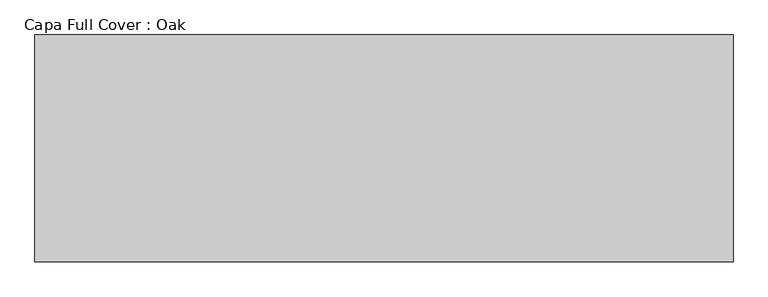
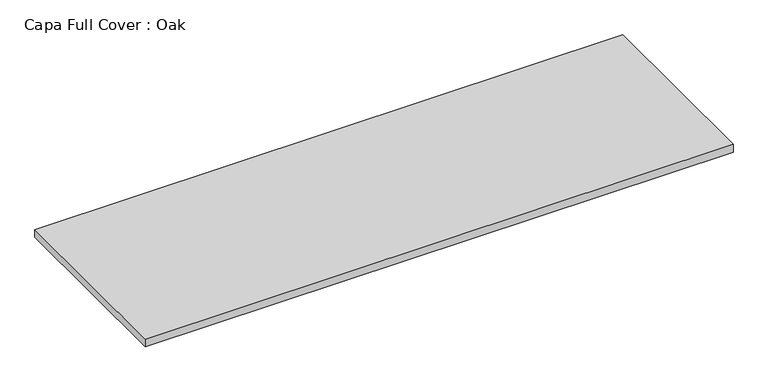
"""IFC4 building model written with IfcOpenShell, lengths in millimetres: furniture geometry, Capa Full Cover : Oak."""

import ifcopenshell
import ifcopenshell.guid

model = None  # the IFC model being written
_history = None  # IfcOwnerHistory: only IFC2X3 demands one
_inside = {}  # id of a spatial element -> (the spatial element, [elements in it])
_under = {}  # id of a project, library or spatial element -> (it, [spatial elements below it])
_declared = {}  # id of a project -> (the project, [libraries it declares])
_typed = {}  # id of a type object -> (the type object, [elements of that type])
_made_of = {}  # id of a material, layer set ... -> (it, [elements and type objects made of it])


def new_model(schema):
    """Start an empty IFC model of exactly this schema.

    Asked for "IFC4X3", IfcOpenShell would pick the latest addendum, in which some entities
    have other attributes; the version numbers below select the first issue.
    IFC2X3 requires an IfcOwnerHistory on every rooted entity: one is made here for all.
    """
    global model, _history
    if schema == "IFC4X3":
        model = ifcopenshell.file(schema_version=(4, 3, 0, 0))
    else:
        model = ifcopenshell.file(schema=schema)
    _inside.clear()
    _under.clear()
    _declared.clear()
    _typed.clear()
    _made_of.clear()
    _history = None
    if model.schema == "IFC2X3":
        org = make("IfcOrganization", Name="unknown")
        user = make(
            "IfcPersonAndOrganization",
            ThePerson=make("IfcPerson", FamilyName="unknown"),
            TheOrganization=org,
        )
        app = make(
            "IfcApplication",
            ApplicationDeveloper=org,
            Version="unknown",
            ApplicationFullName="unknown",
            ApplicationIdentifier="unknown",
        )
        _history = make(
            "IfcOwnerHistory",
            OwningUser=user,
            OwningApplication=app,
            ChangeAction="ADDED",
            CreationDate=0,
        )
    return model


def make(cls, **values):
    """One entity of the class cls with the attributes given. An attribute that is None is left unset."""
    return model.create_entity(
        cls, **{name: value for name, value in values.items() if value is not None}
    )


def rooted(cls, **values):
    """An entity with a GlobalId (a new one), such as an element, a storey or a relation."""
    return make(cls, GlobalId=ifcopenshell.guid.new(), OwnerHistory=_history, **values)


def si_unit(unit_type, name, prefix=None):
    """IfcSIUnit, for example si_unit("LENGTHUNIT", "METRE", prefix="MILLI")."""
    return make("IfcSIUnit", UnitType=unit_type, Prefix=prefix, Name=name)


def assignment(units):
    """IfcUnitAssignment: the units of a project."""
    return None if units is None else make("IfcUnitAssignment", Units=units)


def point(xyz):
    """IfcCartesianPoint."""
    return None if xyz is None else make("IfcCartesianPoint", Coordinates=xyz)


def direction(xyz):
    """IfcDirection."""
    return None if xyz is None else make("IfcDirection", DirectionRatios=xyz)


def frame(location, z_axis=None, x_axis=None):
    """IfcAxis2Placement3D, a coordinate frame: its origin and axes. An axis left out is left unset."""
    return make(
        "IfcAxis2Placement3D",
        Location=point(location),
        Axis=direction(z_axis),
        RefDirection=direction(x_axis),
    )


def origin():
    """The frame at (0, 0, 0) with its axes left unset."""
    return frame((0.0, 0.0, 0.0))


def origin_with_axes():
    """The frame at (0, 0, 0) with the z axis (0, 0, 1) and the x axis (1, 0, 0) written out."""
    return frame((0.0, 0.0, 0.0), z_axis=(0.0, 0.0, 1.0), x_axis=(1.0, 0.0, 0.0))


def place(relative_to, where):
    """IfcLocalPlacement: puts the frame where relative to a parent placement (None: the world)."""
    return make(
        "IfcLocalPlacement", PlacementRelTo=relative_to, RelativePlacement=where
    )


def context(
    kind, dimensions, precision=None, world=None, true_north=None, identifier=None
):
    """IfcGeometricRepresentationContext, for example the 3D "Model" context."""
    return make(
        "IfcGeometricRepresentationContext",
        ContextIdentifier=identifier,
        ContextType=kind,
        CoordinateSpaceDimension=dimensions,
        Precision=precision,
        WorldCoordinateSystem=world,
        TrueNorth=true_north,
    )


def project(units=None, contexts=None):
    """IfcProject with its units and contexts."""
    return rooted(
        "IfcProject",
        Name="project",
        RepresentationContexts=contexts,
        UnitsInContext=assignment(units),
    )


def spatial(cls, under=None, at=None, **own):
    """A site, building, storey or space (cls), placed at a placement, below another one or the project."""
    s = rooted(cls, ObjectPlacement=at, **own)
    if under is not None:
        _under.setdefault(under.id(), (under, []))[1].append(s)
    return s


def polyline(points):
    """IfcPolyline through the points."""
    return make("IfcPolyline", Points=[point(p) for p in points])


def outline(outer, holes=None, kind="AREA"):
    """IfcArbitraryClosedProfileDef: a profile drawn as a closed curve; with holes, ...WithVoids."""
    if holes is None:
        return make("IfcArbitraryClosedProfileDef", ProfileType=kind, OuterCurve=outer)
    return make(
        "IfcArbitraryProfileDefWithVoids",
        ProfileType=kind,
        OuterCurve=outer,
        InnerCurves=holes,
    )


def extrude(swept, where, along, depth):
    """IfcExtrudedAreaSolid: the profile swept, set in the frame where, extruded along a direction by depth."""
    return make(
        "IfcExtrudedAreaSolid",
        SweptArea=swept,
        Position=where,
        ExtrudedDirection=direction(along),
        Depth=depth,
    )


def shape(context_of_items, identifier, shape_type, items):
    """IfcShapeRepresentation: the items that make up one representation, for example the "Body"."""
    return make(
        "IfcShapeRepresentation",
        ContextOfItems=context_of_items,
        RepresentationIdentifier=identifier,
        RepresentationType=shape_type,
        Items=items,
    )


def source(mapping_origin, context_of_items, identifier, shape_type, items):
    """IfcRepresentationMap: a shape defined once, which mapped items show again and again."""
    return make(
        "IfcRepresentationMap",
        MappingOrigin=mapping_origin,
        MappedRepresentation=shape(context_of_items, identifier, shape_type, items),
    )


def transform(
    local_origin,
    x_axis=None,
    y_axis=None,
    z_axis=None,
    scale=None,
    scale2=None,
    scale3=None,
    uniform=True,
):
    """IfcCartesianTransformationOperator3D, or its non-uniform kind. x_axis, y_axis, z_axis: its Axis1, 2, 3."""
    if uniform:
        return make(
            "IfcCartesianTransformationOperator3D",
            Axis1=direction(x_axis),
            Axis2=direction(y_axis),
            LocalOrigin=point(local_origin),
            Scale=scale,
            Axis3=direction(z_axis),
        )
    return make(
        "IfcCartesianTransformationOperator3DnonUniform",
        Axis1=direction(x_axis),
        Axis2=direction(y_axis),
        LocalOrigin=point(local_origin),
        Scale=scale,
        Axis3=direction(z_axis),
        Scale2=scale2,
        Scale3=scale3,
    )


def mapped(mapping_source, mapping_target):
    """IfcMappedItem: shows the shape of a source again, moved by a transform."""
    return make(
        "IfcMappedItem", MappingSource=mapping_source, MappingTarget=mapping_target
    )


def made_of(thing, what):
    """Note that an element or type object is made of a material, layer set ...; save() writes the relation."""
    if what is not None:
        _made_of.setdefault(what.id(), (what, []))[1].append(thing)
    return thing


def element(
    cls,
    number,
    at=None,
    inside=None,
    cuts=None,
    type_object=None,
    material=None,
    context=None,
    identifier="Body",
    shape_type=None,
    held_by="IfcProductDefinitionShape",
    body=None,
    shapes=None,
    **own,
):
    """One element of the class cls, such as IfcWall. Its Tag is "e" and its number.

    at: its placement. inside: the storey or other place that contains it. cuts: it is an
    opening in that element (IfcRelVoidsElement). A single representation is given by context,
    identifier, shape_type and body (its items); several are given by shapes. held_by: the class
    of the entity that holds the representations. save() writes the other relations.
    """
    e = rooted(cls, Tag="e%d" % number, ObjectPlacement=at, **own)
    if body is not None:
        shapes = [shape(context, identifier, shape_type, body)]
    if shapes is not None:
        e.Representation = make(held_by, Representations=shapes)
    if inside is not None:
        _inside.setdefault(inside.id(), (inside, []))[1].append(e)
    if cuts is not None:
        rooted(
            "IfcRelVoidsElement", RelatingBuildingElement=cuts, RelatedOpeningElement=e
        )
    if type_object is not None:
        _typed.setdefault(type_object.id(), (type_object, []))[1].append(e)
    return made_of(e, material)


def aggregate(whole, parts):
    """IfcRelAggregates: a whole, such as a stair, and the parts it consists of."""
    return rooted("IfcRelAggregates", RelatingObject=whole, RelatedObjects=parts)


def save(model, path):
    """Write the relations noted so far, then the file.

    IfcRelAggregates (storeys below a building ...), IfcRelContainedInSpatialStructure (elements
    in a storey), IfcRelDefinesByType, IfcRelAssociatesMaterial and IfcRelDeclares: one each for
    every whole, place, type object, material and project.
    """
    for whole, parts in _under.values():
        aggregate(whole, parts)
    for where, things in _inside.values():
        rooted(
            "IfcRelContainedInSpatialStructure",
            RelatedElements=things,
            RelatingStructure=where,
        )
    for kind, things in _typed.values():
        rooted("IfcRelDefinesByType", RelatedObjects=things, RelatingType=kind)
    for what, things in _made_of.values():
        rooted("IfcRelAssociatesMaterial", RelatedObjects=things, RelatingMaterial=what)
    for by, libraries in _declared.values():
        rooted("IfcRelDeclares", RelatingContext=by, RelatedDefinitions=libraries)
    model.write(path)


def capa_full_cover_oak_e2b1a25b(model_context):
    return source(origin(), model_context, "Body", "SweptSolid", [
        extrude(outline(polyline([(800.0, 0.0), (800.0, -520.0), (-800.0, -520.0), (-800.0, 0.0), (800.0, 0.0)])), origin_with_axes(), (0.0, 0.0, 1.0), 22.0),
    ])


if __name__ == "__main__":
    model = new_model("IFC4")
    model_context = context("Model", 3, world=origin())
    ifc_project = project(units=[si_unit("LENGTHUNIT", "METRE", prefix="MILLI")], contexts=[model_context])
    site = spatial("IfcSite", under=ifc_project)
    building = spatial("IfcBuilding", under=site)
    placement = place(None, origin())
    capa_full_cover_oak_shape = capa_full_cover_oak_e2b1a25b(model_context)
    element("IfcFurniture", 1, ObjectType="Capa Full Cover : Oak", at=placement, inside=building, context=model_context, shape_type="MappedRepresentation", body=[
        mapped(capa_full_cover_oak_shape, transform((0.0, 0.0, 0.0), x_axis=(1.0, 0.0, 0.0), y_axis=(0.0, 1.0, 0.0), z_axis=(0.0, 0.0, 1.0))),
    ])
    save(model, "model.ifc")
